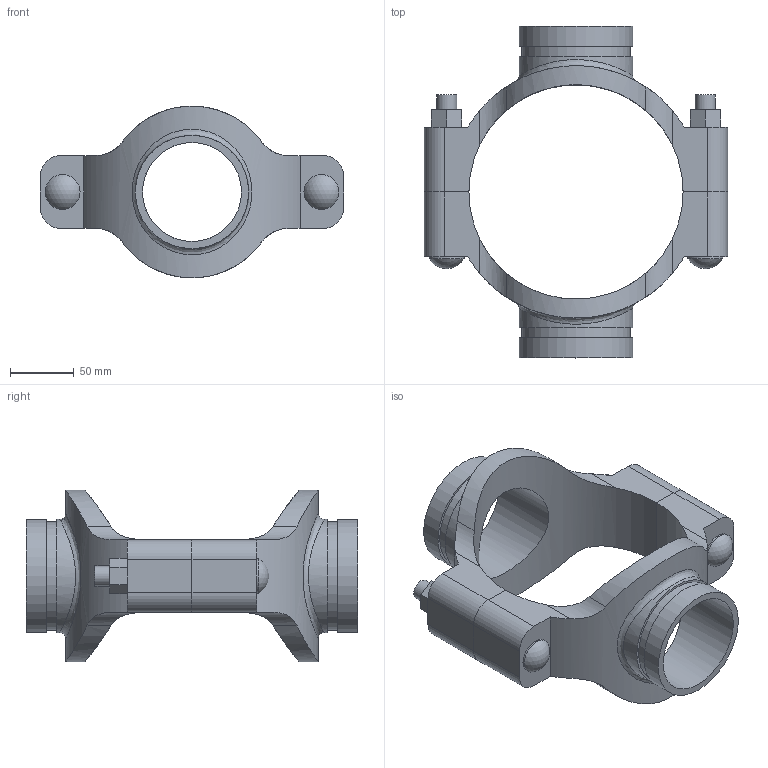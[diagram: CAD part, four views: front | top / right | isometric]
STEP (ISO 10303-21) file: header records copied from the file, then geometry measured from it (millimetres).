
FILE_DESCRIPTION(/* description */ ('VIC MECH-T BRANCH OUTLET CROSS STYLE 920N (GRVD)','CAx-IF Rec.Pracs.---Representation and Presentation of Product Manufacturing Information (PMI)---4.0---2014-10-13'),/* implementation_level */ '2;1');
FILE_NAME(/* name */ 'C:\Users\Vjadhav\AppData\Roaming\Autodesk\ApplicationPlugins\Back Up\Victaulic_IPS_Mechanical-Cross Outlet_Style 920N (OGS)\Victaulic_IPS_Mechanical-Cross Outlet_06.0x03.0x03.0 (150x80x80).stp',/* time_stamp */ '2020-08-06T19:44:57+05:00',/* author */ ('Vjadhav'),/* organization */ ('Victaulic'),/* preprocessor_version */ 'ST-DEVELOPER v17.2',/* originating_system */ 'Autodesk Inventor 2019',/* authorisation */ '');
FILE_SCHEMA (('AP242_MANAGED_MODEL_BASED_3D_ENGINEERING_MIM_LF { 1 0 10303 442 1 1 4 }'));
Length unit declared in the file: inch
Products named in the file (3): 920NG-06.0x03.0x03.0; 920G-06.0x03.0; 920G-06.0x03.0_1
Assembly tree (2 placements, depth 2):
  920NG-06.0x03.0x03.0
    920G-06.0x03.0
    920G-06.0x03.0_1
Bounding box: 238.25 x 260.6 x 134.79 mm (x, y, z)
Volume: 926246.9 mm3; surface area: 190393.6 mm2
Topology: 2 solids, 2 shells, 104 faces, 262 edges, 178 vertices
Faces by surface type: plane 54, cylinder 46, sphere 2, bspline 2
Full cylindrical faces by diameter (mm): 15.875 x4, 27.381 x2, 77.787 x2, 84.938 x2, 88.9 x4
Entity records: 4206 total; most frequent: CARTESIAN_POINT 1433, DIRECTION 532, ORIENTED_EDGE 524, EDGE_CURVE 262, AXIS2_PLACEMENT_3D 193, VERTEX_POINT 178, LINE 146, VECTOR 146
